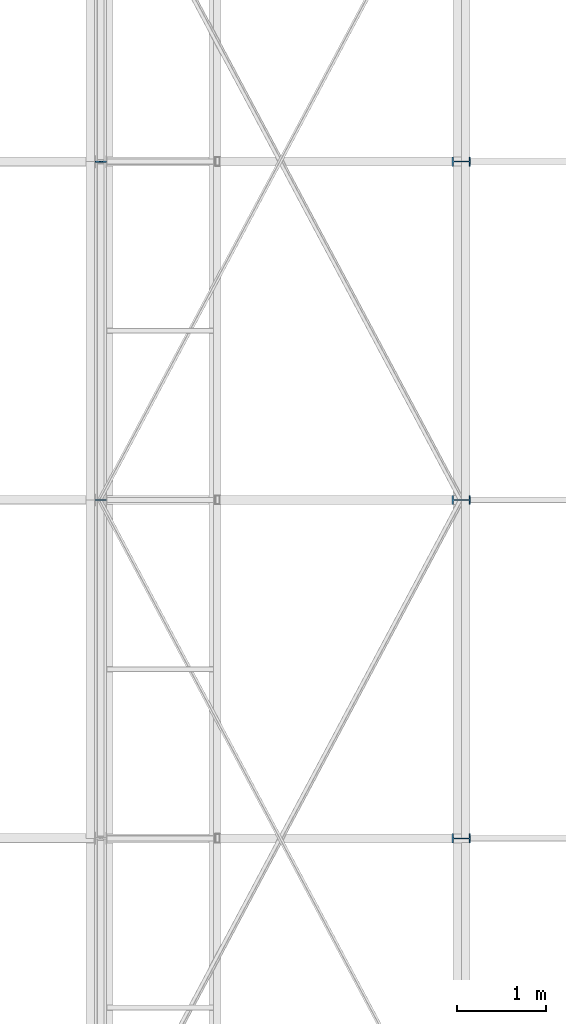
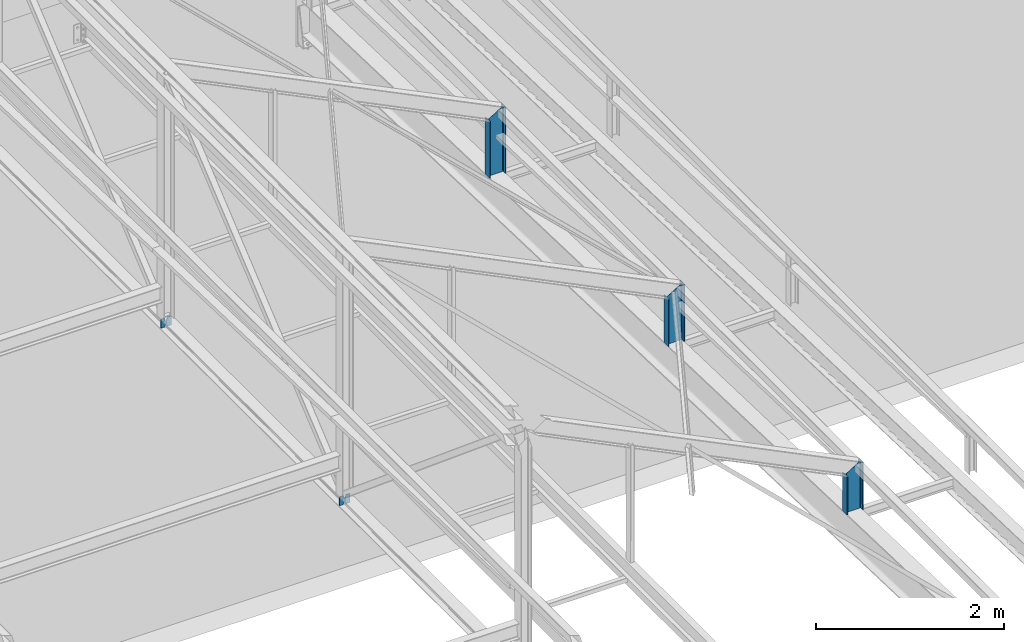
# One storey, part 91 of 123: 7 discrete accessories, 4 elements without a shape of their own.
"""IFC2X3 building model written with IfcOpenShell, lengths in millimetres."""

from ifc_helpers import new_model, si_unit, frame, origin_with_axes, origin_2d_with_axis, place, context, subcontext, project, spatial, polyline, i_section, outline, extrude, clip, halfspace, material, type_object, element, aggregate, save


model = new_model("IFC2X3")

# Units and contexts
model_context = context("Model", 3, precision=1e-05, world=origin_with_axes())
body_context = subcontext(model_context, "Body", "Model", "MODEL_VIEW")
ifc_project = project(units=[si_unit("LENGTHUNIT", "METRE", prefix="MILLI"), si_unit("AREAUNIT", "SQUARE_METRE"), si_unit("VOLUMEUNIT", "CUBIC_METRE"), si_unit("MASSUNIT", "GRAM", prefix="KILO"), si_unit("TIMEUNIT", "SECOND"), si_unit("PLANEANGLEUNIT", "RADIAN"), si_unit("SOLIDANGLEUNIT", "STERADIAN"), si_unit("THERMODYNAMICTEMPERATUREUNIT", "DEGREE_CELSIUS"), si_unit("LUMINOUSINTENSITYUNIT", "LUMEN")], contexts=[model_context])

# Site, building, storey
site_placement = place(None, origin_with_axes())
site = spatial("IfcSite", under=ifc_project, at=site_placement, Name="Undefined", CompositionType="ELEMENT")
building_placement = place(site_placement, origin_with_axes())
building = spatial("IfcBuilding", under=site, at=building_placement, Name="Undefined", CompositionType="ELEMENT")
storey_placement = place(building_placement, origin_with_axes())
storey = spatial("IfcBuildingStorey", under=building, at=storey_placement, Name="Undefined", CompositionType="ELEMENT", Elevation=0.0)

# Assembly, discrete accessories
assembly_1_placement = place(storey_placement, origin_with_axes())
assembly_1 = element("IfcElementAssembly", 1, at=assembly_1_placement, inside=storey, Name="Steel Assembly", AssemblyPlace="NOTDEFINED", PredefinedType="RIGID_FRAME")
ifc_material_1 = material(Name="STEEL/S235-E24")
discrete_accessory_type_1 = type_object("IfcDiscreteAccessoryType", Name="RAIDISSEUR")
discrete_accessory_1_placement = place(assembly_1_placement, frame((34342.7499999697, 7600.00552177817, 7126.5), z_axis=(0.0, 1.0, 0.0), x_axis=(-1.0, 0.0, 0.0)))
discrete_accessory_1 = element("IfcDiscreteAccessory", 2, at=discrete_accessory_1_placement, type_object=discrete_accessory_type_1, material=ifc_material_1, Name="RAIDISSEUR", ObjectType="TOLE10*60", context=body_context, shape_type="SweptSolid", body=[
    extrude(outline(polyline([(0.0, 0.0), (45.0, 0.0), (60.0, 40.0), (60.0, 74.0), (45.0, 114.0), (0.0, 114.0), (0.0, 0.0)])), frame((0.0, 0.0, -5.0), z_axis=(0.0, 0.0, 1.0), x_axis=(1.0, 0.0, 0.0)), (0.0, 0.0, 1.0), 10.0),
])
discrete_accessory_2_placement = place(assembly_1_placement, frame((34277.2499999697, 7600.00552177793, 7126.5), z_axis=(0.0, 1.0, 0.0), x_axis=(-1.0, 0.0, 0.0)))
discrete_accessory_2 = element("IfcDiscreteAccessory", 3, at=discrete_accessory_2_placement, type_object=discrete_accessory_type_1, material=ifc_material_1, Name="RAIDISSEUR", ObjectType="TOLE10*60", context=body_context, shape_type="SweptSolid", body=[
    extrude(outline(polyline([(0.0, 40.0), (15.0, 0.0), (60.0, 0.0), (60.0, 114.0), (15.0, 114.0), (0.0, 74.0), (0.0, 40.0)])), frame((0.0, 0.0, -5.0), z_axis=(0.0, 0.0, 1.0), x_axis=(1.0, 0.0, 0.0)), (0.0, 0.0, 1.0), 10.0),
])
discrete_accessory_3_placement = place(assembly_1_placement, frame((34342.7499999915, 11400.0000008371, 7126.5), z_axis=(0.0, 1.0, 0.0), x_axis=(-1.0, 0.0, 0.0)))
discrete_accessory_3 = element("IfcDiscreteAccessory", 4, at=discrete_accessory_3_placement, type_object=discrete_accessory_type_1, material=ifc_material_1, Name="RAIDISSEUR", ObjectType="TOLE10*60", context=body_context, shape_type="SweptSolid", body=[
    extrude(outline(polyline([(0.0, 0.0), (45.0, 0.0), (60.0, 40.0), (60.0, 74.0), (45.0, 114.0), (0.0, 114.0), (0.0, 0.0)])), frame((0.0, 0.0, -5.0), z_axis=(0.0, 0.0, 1.0), x_axis=(1.0, 0.0, 0.0)), (0.0, 0.0, 1.0), 10.0),
])
discrete_accessory_4_placement = place(assembly_1_placement, frame((34277.2499999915, 11400.0000008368, 7126.5), z_axis=(0.0, 1.0, 0.0), x_axis=(-1.0, 0.0, 0.0)))
discrete_accessory_4 = element("IfcDiscreteAccessory", 5, at=discrete_accessory_4_placement, type_object=discrete_accessory_type_1, material=ifc_material_1, Name="RAIDISSEUR", ObjectType="TOLE10*60", context=body_context, shape_type="SweptSolid", body=[
    extrude(outline(polyline([(0.0, 40.0), (15.0, 0.0), (60.0, 0.0), (60.0, 114.0), (15.0, 114.0), (0.0, 74.0), (0.0, 40.0)])), frame((0.0, 0.0, -5.0), z_axis=(0.0, 0.0, 1.0), x_axis=(1.0, 0.0, 0.0)), (0.0, 0.0, 1.0), 10.0),
])
aggregate(assembly_1, [discrete_accessory_1, discrete_accessory_2, discrete_accessory_3, discrete_accessory_4])

# Assembly, discrete accessory
assembly_2_placement = place(storey_placement, origin_with_axes())
assembly_2 = element("IfcElementAssembly", 6, at=assembly_2_placement, inside=storey, Name="Steel Assembly", AssemblyPlace="NOTDEFINED", PredefinedType="RIGID_FRAME")
ifc_material_2 = material(Name="STEEL/S275-E28")
discrete_accessory_type_2 = type_object("IfcDiscreteAccessoryType", Name="TRAVERSE SHED")
discrete_accessory_5_placement = place(assembly_2_placement, frame((38330.0, 11400.0, 7691.74106035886), z_axis=(0.0, 0.0, 1.0), x_axis=(-1.0, 0.0, 0.0)))
discrete_accessory_5 = element("IfcDiscreteAccessory", 7, at=discrete_accessory_5_placement, type_object=discrete_accessory_type_2, material=ifc_material_2, Name="TRAVERSE SHED", ObjectType="IPE200", context=body_context, shape_type="Clipping", body=[
    clip(extrude(i_section(OverallWidth=100.0, OverallDepth=200.0, WebThickness=5.599999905, FlangeThickness=8.5, FilletRadius=12.0, at=origin_2d_with_axis()), frame((0.0, 0.0, 858.881603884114), z_axis=(0.0, 0.0, -1.0), x_axis=(0.0, 1.0, 0.0)), (0.0, 0.0, 1.0), 858.9), halfspace(frame((100.0, 11400.0, 733.725843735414), z_axis=(-0.528573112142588, 0.0, -0.848887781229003), x_axis=(0.0, 1.0, 0.0)), True)),
])
aggregate(assembly_2, [discrete_accessory_5])

assembly_3_placement = place(storey_placement, origin_with_axes())
assembly_3 = element("IfcElementAssembly", 8, at=assembly_3_placement, inside=storey, Name="Steel Assembly", AssemblyPlace="NOTDEFINED", PredefinedType="RIGID_FRAME")
discrete_accessory_6_placement = place(assembly_3_placement, frame((38330.0, 7600.0, 7811.16133145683), z_axis=(0.0, 0.0, 1.0), x_axis=(-1.0, 0.0, 0.0)))
discrete_accessory_6 = element("IfcDiscreteAccessory", 9, at=discrete_accessory_6_placement, type_object=discrete_accessory_type_2, material=ifc_material_2, Name="TRAVERSE SHED", ObjectType="IPE200", context=body_context, shape_type="Clipping", body=[
    clip(extrude(i_section(OverallWidth=100.0, OverallDepth=200.0, WebThickness=5.599999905, FlangeThickness=8.5, FilletRadius=12.0, at=origin_2d_with_axis()), frame((0.0, 0.0, 739.461332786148), z_axis=(0.0, 0.0, -1.0), x_axis=(0.0, 1.0, 0.0)), (0.0, 0.0, 1.0), 739.5), halfspace(frame((100.0, 7600.0, 614.305572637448), z_axis=(-0.528573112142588, 0.0, -0.848887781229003), x_axis=(0.0, 1.0, 0.0)), True)),
])
aggregate(assembly_3, [discrete_accessory_6])

assembly_4_placement = place(storey_placement, origin_with_axes())
assembly_4 = element("IfcElementAssembly", 10, at=assembly_4_placement, inside=storey, Name="Steel Assembly", AssemblyPlace="NOTDEFINED", PredefinedType="RIGID_FRAME")
discrete_accessory_7_placement = place(assembly_4_placement, frame((38330.0, 3800.0, 7930.51916728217), z_axis=(0.0, 0.0, 1.0), x_axis=(-1.0, 0.0, 0.0)))
discrete_accessory_7 = element("IfcDiscreteAccessory", 11, at=discrete_accessory_7_placement, type_object=discrete_accessory_type_2, material=ifc_material_2, Name="TRAVERSE SHED", ObjectType="IPE200", context=body_context, shape_type="Clipping", body=[
    clip(extrude(i_section(OverallWidth=100.0, OverallDepth=200.0, WebThickness=5.599999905, FlangeThickness=8.5, FilletRadius=12.0, at=origin_2d_with_axis()), frame((0.0, 0.0, 620.103496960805), z_axis=(0.0, 0.0, -1.0), x_axis=(0.0, 1.0, 0.0)), (0.0, 0.0, 1.0), 620.1), halfspace(frame((100.0, 3800.0, 494.947736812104), z_axis=(-0.528573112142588, 0.0, -0.848887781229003), x_axis=(0.0, 1.0, 0.0)), True)),
])
aggregate(assembly_4, [discrete_accessory_7])

save(model, "model.ifc")
